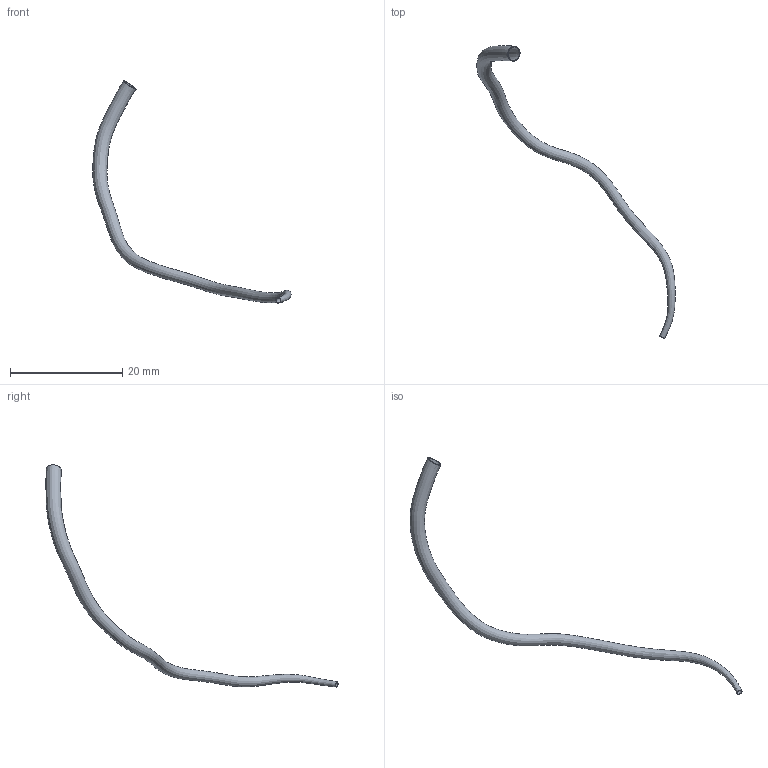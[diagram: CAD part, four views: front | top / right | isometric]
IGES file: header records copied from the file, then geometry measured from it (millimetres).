
Global section: file name: C:\Documents and Settings\Administrator\Desktop\FDA-Pig\Domestic LCA\Pig_000004\lad.seg.ed.igs; native system: Rhinoceros ( May 19 2006 ); preprocessor: Trout Lake IGES 012 May 19 2006; date: 111205.183109; units: centimetre
Bounding box: 35.39 x 52.1 x 39.64 mm (x, y, z)
Surface area: 1111.8 mm2 (no closed solid volume)
Topology: 0 solids, 0 shells, 4 faces, 13 edges, 10 vertices
Faces by surface type: bspline 4
